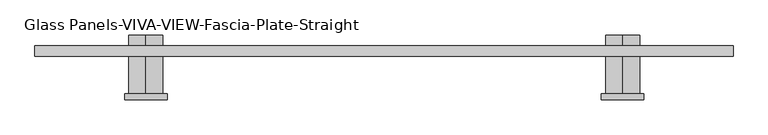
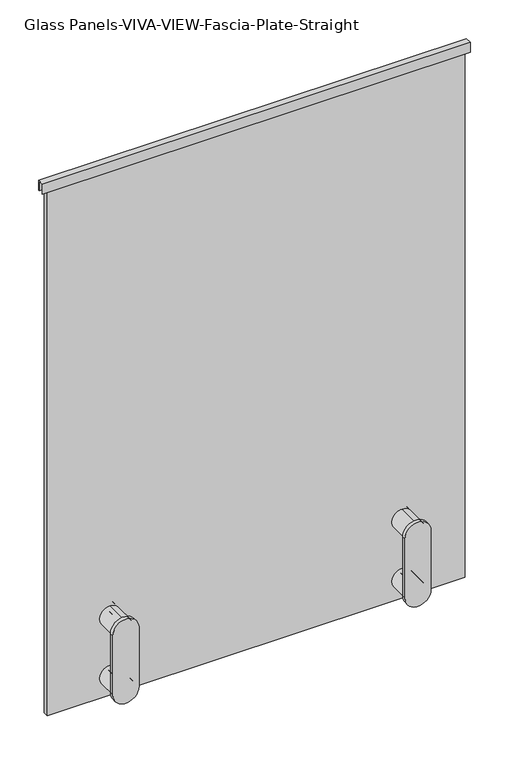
"""IFC4 building model written with IfcOpenShell, lengths in millimetres: railing geometry, Glass Panels-VIVA-VIEW-Fascia-Plate-Straight."""

from ifc_helpers import new_model, si_unit, point, frame, frame_2d, origin, place, context, project, spatial, polyline, circle_curve, trimmed, segment, composite_curve, outline, extrude, source, transform, mapped, element, save
from ifc_brep_helpers import plane_surface, cylinder_surface, advanced_brep


def glass_panels_viva_view_fascia_plate_straight_29b8bf0f(model_context):
    return source(origin(), model_context, "Body", "SolidModel", [
        extrude(outline(polyline([(-10291.1594585, 4140.2), (-10275.2844585, 4140.2), (-10275.2844585, 4114.8), (-10276.8719585, 4114.8), (-10276.8719585, 4138.6125), (-10289.5719585, 4138.6125), (-10289.5719585, 4114.8), (-10291.1594585, 4114.8), (-10291.1594585, 4140.2)])), frame((37756.3266433, 0.0, 0.0), z_axis=(1.0, 0.0, 0.0), x_axis=(0.0, 1.0, 0.0)), (0.0, 0.0, 1.0), 1041.4),
        advanced_brep(
        [(37921.8096899, -10259.4097524, 2794.0), (37921.8096899, -10259.4097524, 2819.4), (37921.8096899, -10259.4097524, 2844.8), (37921.8096899, -10276.8722524, 2794.0), (37921.8096899, -10276.8722524, 2844.8), (37921.8096899, -10276.8722524, 2813.685), (37921.8096899, -10276.8722524, 2825.115), (37921.8096899, -10289.5722524, 2813.685), (37921.8096899, -10289.5722524, 2825.115), (37921.8096899, -10289.5722524, 2794.0), (37921.8096899, -10289.5722524, 2844.8), (37921.8096899, -10346.7221054, 2794.0), (37921.8096899, -10346.7221054, 2844.8), (37921.8096899, -10346.7221054, 2819.4)],
        [
            (0, 1),
            (1, 2),
            (2, 0, circle_curve(frame((37921.8096899, -10259.4097524, 2819.4), z_axis=(0.0, 1.0, 0.0), x_axis=(0.0, 0.0, 1.0)), 25.4)),
            (0, 2, circle_curve(frame((37921.8096899, -10259.4097524, 2819.4), z_axis=(0.0, 1.0, 0.0), x_axis=(0.0, 0.0, 1.0)), 25.4)),
            (3, 0),
            (2, 4),
            (4, 3, circle_curve(frame((37921.8096899, -10276.8722524, 2819.4), z_axis=(0.0, 1.0, 0.0), x_axis=(0.0, 0.0, 1.0)), 25.4)),
            (3, 4, circle_curve(frame((37921.8096899, -10276.8722524, 2819.4), z_axis=(0.0, 1.0, 0.0), x_axis=(0.0, 0.0, 1.0)), 25.4)),
            (5, 3),
            (4, 6),
            (6, 5, circle_curve(frame((37921.8096899, -10276.8722524, 2819.4), z_axis=(0.0, 1.0, 0.0), x_axis=(0.0, 0.0, 1.0)), 5.715)),
            (5, 6, circle_curve(frame((37921.8096899, -10276.8722524, 2819.4), z_axis=(0.0, 1.0, 0.0), x_axis=(0.0, 0.0, 1.0)), 5.715)),
            (7, 5),
            (6, 8),
            (8, 7, circle_curve(frame((37921.8096899, -10289.5722524, 2819.4), z_axis=(0.0, 1.0, 0.0), x_axis=(0.0, 0.0, 1.0)), 5.715)),
            (7, 8, circle_curve(frame((37921.8096899, -10289.5722524, 2819.4), z_axis=(0.0, 1.0, 0.0), x_axis=(0.0, 0.0, 1.0)), 5.715)),
            (9, 7),
            (8, 10),
            (10, 9, circle_curve(frame((37921.8096899, -10289.5722524, 2819.4), z_axis=(0.0, 1.0, 0.0), x_axis=(0.0, 0.0, 1.0)), 25.4)),
            (9, 10, circle_curve(frame((37921.8096899, -10289.5722524, 2819.4), z_axis=(0.0, 1.0, 0.0), x_axis=(0.0, 0.0, 1.0)), 25.4)),
            (11, 9),
            (10, 12),
            (12, 11, circle_curve(frame((37921.8096899, -10346.7221054, 2819.4), z_axis=(0.0, 1.0, 0.0), x_axis=(0.0, 0.0, 1.0)), 25.4)),
            (11, 12, circle_curve(frame((37921.8096899, -10346.7221054, 2819.4), z_axis=(0.0, 1.0, 0.0), x_axis=(0.0, 0.0, 1.0)), 25.4)),
            (13, 11),
            (12, 13),
        ],
        [
            plane_surface(frame((37921.8096899, -10259.4097524, 2819.4), z_axis=(0.0, 1.0, 0.0), x_axis=(0.0, 0.0, 1.0))),
            cylinder_surface(frame((37921.8096899, -10191.1471054, 2819.4), z_axis=(0.0, -1.0, 0.0), x_axis=(0.0, 0.0, 1.0)), 25.4),
            plane_surface(frame((37921.8096899, -10276.8722524, 2819.4), z_axis=(0.0, -1.0, 0.0), x_axis=(0.0, 0.0, 1.0))),
            cylinder_surface(frame((37921.8096899, -10191.1471054, 2819.4), z_axis=(0.0, -1.0, 0.0), x_axis=(0.0, 0.0, 1.0)), 5.715),
            plane_surface(frame((37921.8096899, -10289.5722524, 2819.4), z_axis=(0.0, 1.0, 0.0), x_axis=(0.0, 0.0, 1.0))),
            plane_surface(frame((37921.8096899, -10346.7221054, 2819.4), z_axis=(0.0, -1.0, 0.0), x_axis=(0.0, 0.0, 1.0))),
        ],
        [
            (0, [[1, 2, 3]]),
            (0, [[-2, -1, 4]]),
            (1, [[5, -3, 6, 7]]),
            (1, [[-6, -4, -5, 8]]),
            (2, [[9, -7, 10, 11]]),
            (2, [[-10, -8, -9, 12]]),
            (3, [[13, -11, 14, 15]]),
            (3, [[-14, -12, -13, 16]]),
            (4, [[17, -15, 18, 19]]),
            (4, [[-18, -16, -17, 20]]),
            (1, [[21, -19, 22, 23]]),
            (1, [[-22, -20, -21, 24]]),
            (5, [[25, -23, 26]]),
            (5, [[-26, -24, -25]]),
        ],
    ),
        advanced_brep(
        [(37921.8096899, -10276.8722524, 2966.085), (37921.8096899, -10276.8722524, 2946.4), (37921.8096899, -10276.8722524, 2997.2), (37921.8096899, -10276.8722524, 2977.515), (37921.8096899, -10289.5722524, 2966.085), (37921.8096899, -10289.5722524, 2977.515), (37921.8096899, -10289.5722524, 2946.4), (37921.8096899, -10289.5722524, 2997.2), (37921.8096899, -10346.7221054, 2946.4), (37921.8096899, -10346.7221054, 2997.2), (37921.8096899, -10346.7221054, 2971.8), (37921.8096899, -10259.4097524, 2946.4), (37921.8096899, -10259.4097524, 2971.8), (37921.8096899, -10259.4097524, 2997.2)],
        [
            (0, 1),
            (1, 2, circle_curve(frame((37921.8096899, -10276.8722524, 2971.8), z_axis=(0.0, -1.0, 0.0), x_axis=(0.0, 0.0, 1.0)), 25.4)),
            (2, 3),
            (3, 0, circle_curve(frame((37921.8096899, -10276.8722524, 2971.8), z_axis=(0.0, 1.0, 0.0), x_axis=(0.0, 0.0, 1.0)), 5.715)),
            (2, 1, circle_curve(frame((37921.8096899, -10276.8722524, 2971.8), z_axis=(0.0, -1.0, 0.0), x_axis=(0.0, 0.0, 1.0)), 25.4)),
            (0, 3, circle_curve(frame((37921.8096899, -10276.8722524, 2971.8), z_axis=(0.0, 1.0, 0.0), x_axis=(0.0, 0.0, 1.0)), 5.715)),
            (4, 0),
            (3, 5),
            (5, 4, circle_curve(frame((37921.8096899, -10289.5722524, 2971.8), z_axis=(0.0, 1.0, 0.0), x_axis=(0.0, 0.0, 1.0)), 5.715)),
            (4, 5, circle_curve(frame((37921.8096899, -10289.5722524, 2971.8), z_axis=(0.0, 1.0, 0.0), x_axis=(0.0, 0.0, 1.0)), 5.715)),
            (6, 4),
            (5, 7),
            (7, 6, circle_curve(frame((37921.8096899, -10289.5722524, 2971.8), z_axis=(0.0, 1.0, 0.0), x_axis=(0.0, 0.0, 1.0)), 25.4)),
            (6, 7, circle_curve(frame((37921.8096899, -10289.5722524, 2971.8), z_axis=(0.0, 1.0, 0.0), x_axis=(0.0, 0.0, 1.0)), 25.4)),
            (8, 6),
            (7, 9),
            (9, 8, circle_curve(frame((37921.8096899, -10346.7221054, 2971.8), z_axis=(0.0, 1.0, 0.0), x_axis=(0.0, 0.0, 1.0)), 25.4)),
            (8, 9, circle_curve(frame((37921.8096899, -10346.7221054, 2971.8), z_axis=(0.0, 1.0, 0.0), x_axis=(0.0, 0.0, 1.0)), 25.4)),
            (10, 8),
            (9, 10),
            (11, 12),
            (12, 13),
            (13, 11, circle_curve(frame((37921.8096899, -10259.4097524, 2971.8), z_axis=(0.0, 1.0, 0.0), x_axis=(0.0, 0.0, 1.0)), 25.4)),
            (11, 13, circle_curve(frame((37921.8096899, -10259.4097524, 2971.8), z_axis=(0.0, 1.0, 0.0), x_axis=(0.0, 0.0, 1.0)), 25.4)),
            (1, 11),
            (13, 2),
        ],
        [
            plane_surface(frame((37921.8096899, -10276.8722524, 2971.8), z_axis=(0.0, -1.0, 0.0), x_axis=(0.0, 0.0, 1.0))),
            cylinder_surface(frame((37921.8096899, -10191.1471054, 2971.8), z_axis=(0.0, -1.0, 0.0), x_axis=(0.0, 0.0, 1.0)), 5.715),
            plane_surface(frame((37921.8096899, -10289.5722524, 2971.8), z_axis=(0.0, 1.0, 0.0), x_axis=(0.0, 0.0, 1.0))),
            cylinder_surface(frame((37921.8096899, -10191.1471054, 2971.8), z_axis=(0.0, -1.0, 0.0), x_axis=(0.0, 0.0, 1.0)), 25.4),
            plane_surface(frame((37921.8096899, -10346.7221054, 2971.8), z_axis=(0.0, -1.0, 0.0), x_axis=(0.0, 0.0, 1.0))),
            plane_surface(frame((37921.8096899, -10259.4097524, 2971.8), z_axis=(0.0, 1.0, 0.0), x_axis=(0.0, 0.0, 1.0))),
        ],
        [
            (0, [[1, 2, 3, 4]]),
            (0, [[-3, 5, -1, 6]]),
            (1, [[7, -4, 8, 9]]),
            (1, [[-8, -6, -7, 10]]),
            (2, [[11, -9, 12, 13]]),
            (2, [[-12, -10, -11, 14]]),
            (3, [[15, -13, 16, 17]]),
            (3, [[-16, -14, -15, 18]]),
            (4, [[19, -17, 20]]),
            (4, [[-20, -18, -19]]),
            (5, [[21, 22, 23]]),
            (5, [[-22, -21, 24]]),
            (3, [[25, -23, 26, -2]]),
            (3, [[-26, -24, -25, -5]]),
        ],
    ),
        extrude(outline(composite_curve([segment(polyline([(2971.8, 37890.0596899), (2819.4, 37890.0596899)]), True, "CONTINUOUS"), segment(trimmed(circle_curve(frame_2d((2819.4, 37921.8096899)), 31.75), [point((2819.4, 37890.0596899))], [point((2819.4, 37953.5596899))], False, "CARTESIAN"), True, "CONTINUOUS"), segment(polyline([(2819.4, 37953.5596899), (2971.8, 37953.5596899)]), True, "CONTINUOUS"), segment(trimmed(circle_curve(frame_2d((2971.8, 37921.8096899)), 31.75), [point((2971.8, 37953.5596899))], [point((2971.8, 37890.0596899))], False, "CARTESIAN"), True, "CONTINUOUS")], self_intersect=False)), frame((0.0, -10356.2471054, 0.0), z_axis=(0.0, 1.0, 0.0), x_axis=(0.0, 0.0, 1.0)), (0.0, 0.0, 1.0), 9.525),
        advanced_brep(
        [(38633.0096899, -10259.4097524, 2794.0), (38633.0096899, -10259.4097524, 2819.4), (38633.0096899, -10259.4097524, 2844.8), (38633.0096899, -10276.8722524, 2794.0), (38633.0096899, -10276.8722524, 2844.8), (38633.0096899, -10276.8722524, 2813.685), (38633.0096899, -10276.8722524, 2825.115), (38633.0096899, -10289.5722524, 2813.685), (38633.0096899, -10289.5722524, 2825.115), (38633.0096899, -10289.5722524, 2794.0), (38633.0096899, -10289.5722524, 2844.8), (38633.0096899, -10346.7221054, 2794.0), (38633.0096899, -10346.7221054, 2844.8), (38633.0096899, -10346.7221054, 2819.4)],
        [
            (0, 1),
            (1, 2),
            (2, 0, circle_curve(frame((38633.0096899, -10259.4097524, 2819.4), z_axis=(0.0, 1.0, 0.0), x_axis=(0.0, 0.0, 1.0)), 25.4)),
            (0, 2, circle_curve(frame((38633.0096899, -10259.4097524, 2819.4), z_axis=(0.0, 1.0, 0.0), x_axis=(0.0, 0.0, 1.0)), 25.4)),
            (3, 0),
            (2, 4),
            (4, 3, circle_curve(frame((38633.0096899, -10276.8722524, 2819.4), z_axis=(0.0, 1.0, 0.0), x_axis=(0.0, 0.0, 1.0)), 25.4)),
            (3, 4, circle_curve(frame((38633.0096899, -10276.8722524, 2819.4), z_axis=(0.0, 1.0, 0.0), x_axis=(0.0, 0.0, 1.0)), 25.4)),
            (5, 3),
            (4, 6),
            (6, 5, circle_curve(frame((38633.0096899, -10276.8722524, 2819.4), z_axis=(0.0, 1.0, 0.0), x_axis=(0.0, 0.0, 1.0)), 5.715)),
            (5, 6, circle_curve(frame((38633.0096899, -10276.8722524, 2819.4), z_axis=(0.0, 1.0, 0.0), x_axis=(0.0, 0.0, 1.0)), 5.715)),
            (7, 5),
            (6, 8),
            (8, 7, circle_curve(frame((38633.0096899, -10289.5722524, 2819.4), z_axis=(0.0, 1.0, 0.0), x_axis=(0.0, 0.0, 1.0)), 5.715)),
            (7, 8, circle_curve(frame((38633.0096899, -10289.5722524, 2819.4), z_axis=(0.0, 1.0, 0.0), x_axis=(0.0, 0.0, 1.0)), 5.715)),
            (9, 7),
            (8, 10),
            (10, 9, circle_curve(frame((38633.0096899, -10289.5722524, 2819.4), z_axis=(0.0, 1.0, 0.0), x_axis=(0.0, 0.0, 1.0)), 25.4)),
            (9, 10, circle_curve(frame((38633.0096899, -10289.5722524, 2819.4), z_axis=(0.0, 1.0, 0.0), x_axis=(0.0, 0.0, 1.0)), 25.4)),
            (11, 9),
            (10, 12),
            (12, 11, circle_curve(frame((38633.0096899, -10346.7221054, 2819.4), z_axis=(0.0, 1.0, 0.0), x_axis=(0.0, 0.0, 1.0)), 25.4)),
            (11, 12, circle_curve(frame((38633.0096899, -10346.7221054, 2819.4), z_axis=(0.0, 1.0, 0.0), x_axis=(0.0, 0.0, 1.0)), 25.4)),
            (13, 11),
            (12, 13),
        ],
        [
            plane_surface(frame((38633.0096899, -10259.4097524, 2819.4), z_axis=(0.0, 1.0, 0.0), x_axis=(0.0, 0.0, 1.0))),
            cylinder_surface(frame((38633.0096899, -10191.1471054, 2819.4), z_axis=(0.0, -1.0, 0.0), x_axis=(0.0, 0.0, 1.0)), 25.4),
            plane_surface(frame((38633.0096899, -10276.8722524, 2819.4), z_axis=(0.0, -1.0, 0.0), x_axis=(0.0, 0.0, 1.0))),
            cylinder_surface(frame((38633.0096899, -10191.1471054, 2819.4), z_axis=(0.0, -1.0, 0.0), x_axis=(0.0, 0.0, 1.0)), 5.715),
            plane_surface(frame((38633.0096899, -10289.5722524, 2819.4), z_axis=(0.0, 1.0, 0.0), x_axis=(0.0, 0.0, 1.0))),
            plane_surface(frame((38633.0096899, -10346.7221054, 2819.4), z_axis=(0.0, -1.0, 0.0), x_axis=(0.0, 0.0, 1.0))),
        ],
        [
            (0, [[1, 2, 3]]),
            (0, [[-2, -1, 4]]),
            (1, [[5, -3, 6, 7]]),
            (1, [[-6, -4, -5, 8]]),
            (2, [[9, -7, 10, 11]]),
            (2, [[-10, -8, -9, 12]]),
            (3, [[13, -11, 14, 15]]),
            (3, [[-14, -12, -13, 16]]),
            (4, [[17, -15, 18, 19]]),
            (4, [[-18, -16, -17, 20]]),
            (1, [[21, -19, 22, 23]]),
            (1, [[-22, -20, -21, 24]]),
            (5, [[25, -23, 26]]),
            (5, [[-26, -24, -25]]),
        ],
    ),
        advanced_brep(
        [(38633.0096899, -10276.8722524, 2966.085), (38633.0096899, -10276.8722524, 2946.4), (38633.0096899, -10276.8722524, 2997.2), (38633.0096899, -10276.8722524, 2977.515), (38633.0096899, -10289.5722524, 2966.085), (38633.0096899, -10289.5722524, 2977.515), (38633.0096899, -10289.5722524, 2946.4), (38633.0096899, -10289.5722524, 2997.2), (38633.0096899, -10346.7221054, 2946.4), (38633.0096899, -10346.7221054, 2997.2), (38633.0096899, -10346.7221054, 2971.8), (38633.0096899, -10259.4097524, 2946.4), (38633.0096899, -10259.4097524, 2971.8), (38633.0096899, -10259.4097524, 2997.2)],
        [
            (0, 1),
            (1, 2, circle_curve(frame((38633.0096899, -10276.8722524, 2971.8), z_axis=(0.0, -1.0, 0.0), x_axis=(0.0, 0.0, 1.0)), 25.4)),
            (2, 3),
            (3, 0, circle_curve(frame((38633.0096899, -10276.8722524, 2971.8), z_axis=(0.0, 1.0, 0.0), x_axis=(0.0, 0.0, 1.0)), 5.715)),
            (2, 1, circle_curve(frame((38633.0096899, -10276.8722524, 2971.8), z_axis=(0.0, -1.0, 0.0), x_axis=(0.0, 0.0, 1.0)), 25.4)),
            (0, 3, circle_curve(frame((38633.0096899, -10276.8722524, 2971.8), z_axis=(0.0, 1.0, 0.0), x_axis=(0.0, 0.0, 1.0)), 5.715)),
            (4, 0),
            (3, 5),
            (5, 4, circle_curve(frame((38633.0096899, -10289.5722524, 2971.8), z_axis=(0.0, 1.0, 0.0), x_axis=(0.0, 0.0, 1.0)), 5.715)),
            (4, 5, circle_curve(frame((38633.0096899, -10289.5722524, 2971.8), z_axis=(0.0, 1.0, 0.0), x_axis=(0.0, 0.0, 1.0)), 5.715)),
            (6, 4),
            (5, 7),
            (7, 6, circle_curve(frame((38633.0096899, -10289.5722524, 2971.8), z_axis=(0.0, 1.0, 0.0), x_axis=(0.0, 0.0, 1.0)), 25.4)),
            (6, 7, circle_curve(frame((38633.0096899, -10289.5722524, 2971.8), z_axis=(0.0, 1.0, 0.0), x_axis=(0.0, 0.0, 1.0)), 25.4)),
            (8, 6),
            (7, 9),
            (9, 8, circle_curve(frame((38633.0096899, -10346.7221054, 2971.8), z_axis=(0.0, 1.0, 0.0), x_axis=(0.0, 0.0, 1.0)), 25.4)),
            (8, 9, circle_curve(frame((38633.0096899, -10346.7221054, 2971.8), z_axis=(0.0, 1.0, 0.0), x_axis=(0.0, 0.0, 1.0)), 25.4)),
            (10, 8),
            (9, 10),
            (11, 12),
            (12, 13),
            (13, 11, circle_curve(frame((38633.0096899, -10259.4097524, 2971.8), z_axis=(0.0, 1.0, 0.0), x_axis=(0.0, 0.0, 1.0)), 25.4)),
            (11, 13, circle_curve(frame((38633.0096899, -10259.4097524, 2971.8), z_axis=(0.0, 1.0, 0.0), x_axis=(0.0, 0.0, 1.0)), 25.4)),
            (1, 11),
            (13, 2),
        ],
        [
            plane_surface(frame((38633.0096899, -10276.8722524, 2971.8), z_axis=(0.0, -1.0, 0.0), x_axis=(0.0, 0.0, 1.0))),
            cylinder_surface(frame((38633.0096899, -10191.1471054, 2971.8), z_axis=(0.0, -1.0, 0.0), x_axis=(0.0, 0.0, 1.0)), 5.715),
            plane_surface(frame((38633.0096899, -10289.5722524, 2971.8), z_axis=(0.0, 1.0, 0.0), x_axis=(0.0, 0.0, 1.0))),
            cylinder_surface(frame((38633.0096899, -10191.1471054, 2971.8), z_axis=(0.0, -1.0, 0.0), x_axis=(0.0, 0.0, 1.0)), 25.4),
            plane_surface(frame((38633.0096899, -10346.7221054, 2971.8), z_axis=(0.0, -1.0, 0.0), x_axis=(0.0, 0.0, 1.0))),
            plane_surface(frame((38633.0096899, -10259.4097524, 2971.8), z_axis=(0.0, 1.0, 0.0), x_axis=(0.0, 0.0, 1.0))),
        ],
        [
            (0, [[1, 2, 3, 4]]),
            (0, [[-3, 5, -1, 6]]),
            (1, [[7, -4, 8, 9]]),
            (1, [[-8, -6, -7, 10]]),
            (2, [[11, -9, 12, 13]]),
            (2, [[-12, -10, -11, 14]]),
            (3, [[15, -13, 16, 17]]),
            (3, [[-16, -14, -15, 18]]),
            (4, [[19, -17, 20]]),
            (4, [[-20, -18, -19]]),
            (5, [[21, 22, 23]]),
            (5, [[-22, -21, 24]]),
            (3, [[25, -23, 26, -2]]),
            (3, [[-26, -24, -25, -5]]),
        ],
    ),
        extrude(outline(composite_curve([segment(polyline([(2971.8, 38601.2596899), (2819.4, 38601.2596899)]), True, "CONTINUOUS"), segment(trimmed(circle_curve(frame_2d((2819.4, 38633.0096899)), 31.75), [point((2819.4, 38601.2596899))], [point((2819.4, 38664.7596899))], False, "CARTESIAN"), True, "CONTINUOUS"), segment(polyline([(2819.4, 38664.7596899), (2971.8, 38664.7596899)]), True, "CONTINUOUS"), segment(trimmed(circle_curve(frame_2d((2971.8, 38633.0096899)), 31.75), [point((2971.8, 38664.7596899))], [point((2971.8, 38601.2596899))], False, "CARTESIAN"), True, "CONTINUOUS")], self_intersect=False)), frame((0.0, -10356.2471054, 0.0), z_axis=(0.0, 1.0, 0.0), x_axis=(0.0, 0.0, 1.0)), (0.0, 0.0, 1.0), 9.525),
        extrude(outline(polyline([(37769.4096899, -10289.5719585), (37769.4096899, -10276.8719585), (38785.4096899, -10276.8719585), (38785.4096899, -10289.5719585), (37769.4096899, -10289.5719585)])), frame((0.0, 0.0, 2768.6), z_axis=(0.0, 0.0, 1.0), x_axis=(1.0, 0.0, 0.0)), (0.0, 0.0, 1.0), 1370.0125),
    ])


if __name__ == "__main__":
    model = new_model("IFC4")
    model_context = context("Model", 3, world=origin())
    ifc_project = project(units=[si_unit("LENGTHUNIT", "METRE", prefix="MILLI")], contexts=[model_context])
    site = spatial("IfcSite", under=ifc_project)
    building = spatial("IfcBuilding", under=site)
    placement = place(None, origin())
    glass_panels_viva_view_fascia_plate_straight_shape = glass_panels_viva_view_fascia_plate_straight_29b8bf0f(model_context)
    element("IfcRailing", 1, ObjectType="Glass Panels-VIVA-VIEW-Fascia-Plate-Straight", at=placement, inside=building, context=model_context, shape_type="MappedRepresentation", body=[
        mapped(glass_panels_viva_view_fascia_plate_straight_shape, transform((0.0, 0.0, 0.0), x_axis=(1.0, 0.0, 0.0), y_axis=(0.0, 1.0, 0.0), z_axis=(0.0, 0.0, 1.0))),
    ])
    save(model, "model.ifc")
